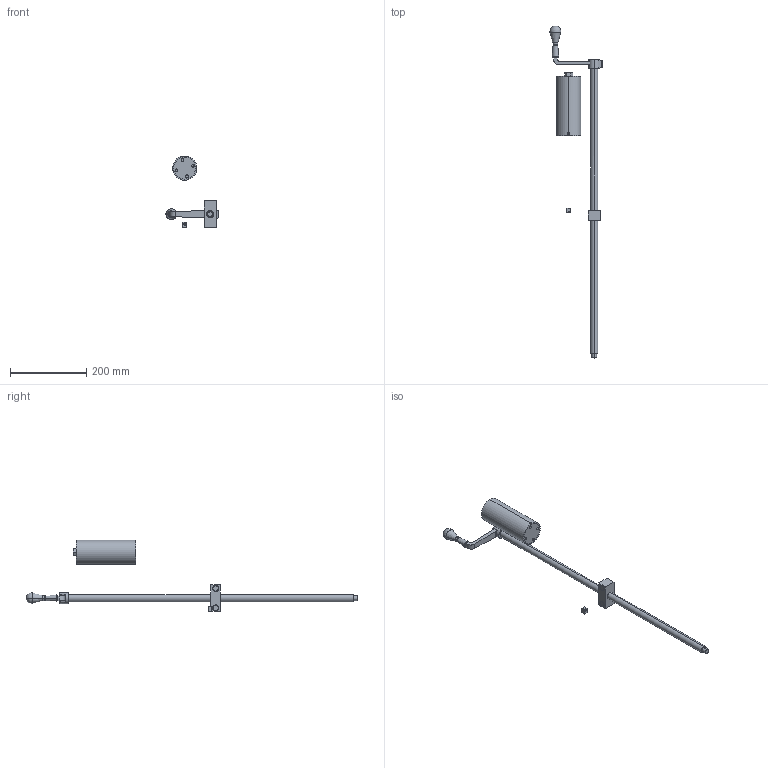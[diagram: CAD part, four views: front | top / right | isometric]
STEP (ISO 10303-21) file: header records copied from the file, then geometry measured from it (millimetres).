
FILE_DESCRIPTION (( 'STEP AP214' ), '1' );
FILE_NAME ('50-A-DS PRESS W RISER SCREW OPTION.STEP', '2024-07-29T14:08:38', ( '' ), ( '' ), 'SwSTEP 2.0', 'SolidWorks 2018', '' );
FILE_SCHEMA (( 'AUTOMOTIVE_DESIGN' ));
Length unit declared in the file: inch
Products named in the file (5): 50-A-DS PRESS W RISER SCREW OPTION; OPTIONS^50A PRESS_50-A-DS PRESS W RISER SCREW OPTION; 50A RISER SCREW (COLUMN KEY)^OPTIONS_50A PRESS_50-A-DS PRESS W RISER SCREW OPTION; 50A ADJUSTABLE DOWNSTOP^OPTIONS_50A PRESS_50-A-DS PRESS W RISER SCREW OPTION; 50A PRESS^50-A-DS PRESS W RISER SCREW OPTION
Assembly tree (4 placements, depth 4):
  50-A-DS PRESS W RISER SCREW OPTION
    50A PRESS^50-A-DS PRESS W RISER SCREW OPTION
      OPTIONS^50A PRESS_50-A-DS PRESS W RISER SCREW OPTION
        50A ADJUSTABLE DOWNSTOP^OPTIONS_50A PRESS_50-A-DS PRESS W RISER SCREW OPTION
        50A RISER SCREW (COLUMN KEY)^OPTIONS_50A PRESS_50-A-DS PRESS W RISER SCREW OPTION
Bounding box: 136.51 x 869.89 x 188.56 mm (x, y, z)
Volume: 219982.7 mm3; surface area: 157872.6 mm2
Topology: 8 solids, 12 shells, 148 faces, 347 edges, 224 vertices
Faces by surface type: plane 65, cylinder 61, cone 11, torus 9, sphere 2
Entity records: 6215 total; most frequent: CARTESIAN_POINT 2718, ORIENTED_EDGE 667, DIRECTION 537, EDGE_CURVE 345, AXIS2_PLACEMENT_3D 235, VERTEX_POINT 224, B_SPLINE_CURVE_WITH_KNOTS 201, EDGE_LOOP 174
